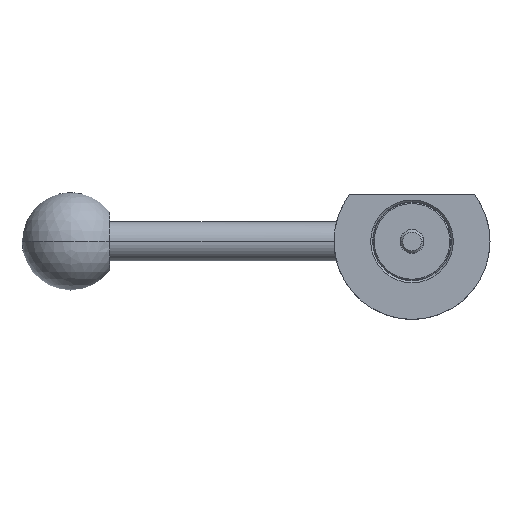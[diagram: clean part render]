
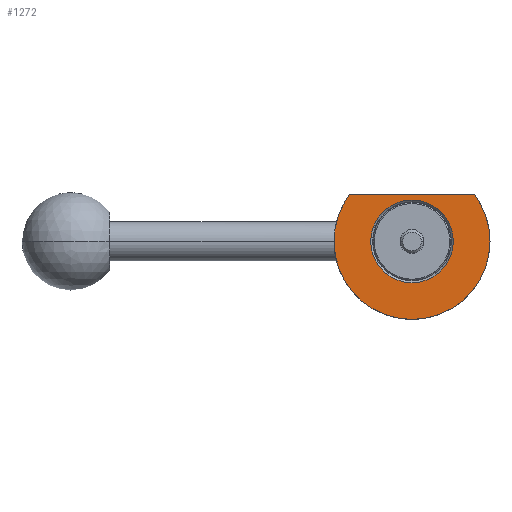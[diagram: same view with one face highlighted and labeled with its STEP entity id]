
A CAD part, front view. The second image highlights one B-rep face of the part: STEP entity #1272.
In plain terms, the highlighted planar face has unit normal (0, -1, 0).
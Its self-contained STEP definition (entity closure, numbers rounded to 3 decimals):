
#108 = CARTESIAN_POINT ( 'NONE',  ( -20., -10., 0. ) ) ;
#115 = CIRCLE ( 'NONE', #377, 20. ) ;
#179 = EDGE_LOOP ( 'NONE', ( #969, #1122 ) ) ;
#233 = CIRCLE ( 'NONE', #1125, 10.6 ) ;
#241 = LINE ( 'NONE', #1375, #759 ) ;
#245 = CARTESIAN_POINT ( 'NONE',  ( 10.6, -10., 0. ) ) ;
#270 = VERTEX_POINT ( 'NONE', #245 ) ;
#336 = DIRECTION ( 'NONE',  ( -1., 0., 0. ) ) ;
#344 = ORIENTED_EDGE ( 'NONE', *, *, #1345, .T. ) ;
#370 = PLANE ( 'NONE',  #1350 ) ;
#377 = AXIS2_PLACEMENT_3D ( 'NONE', #940, #1115, #784 ) ;
#417 = CARTESIAN_POINT ( 'NONE',  ( 0., -10., 0. ) ) ;
#441 = DIRECTION ( 'NONE',  ( 0., 1., 0. ) ) ;
#451 = EDGE_CURVE ( 'NONE', #1433, #1454, #115, .T. ) ;
#465 = CIRCLE ( 'NONE', #1506, 20. ) ;
#539 = EDGE_LOOP ( 'NONE', ( #1408, #344, #1915, #936 ) ) ;
#540 = FACE_OUTER_BOUND ( 'NONE', #539, .T. ) ;
#592 = CARTESIAN_POINT ( 'NONE',  ( -10.6, -10., 0. ) ) ;
#660 = DIRECTION ( 'NONE',  ( 1., 0., 0. ) ) ;
#667 = DIRECTION ( 'NONE',  ( 0., 1., 0. ) ) ;
#683 = CARTESIAN_POINT ( 'NONE',  ( 0., -10., 0. ) ) ;
#759 = VECTOR ( 'NONE', #1986, 1000. ) ;
#784 = DIRECTION ( 'NONE',  ( -1., 0., 0. ) ) ;
#825 = DIRECTION ( 'NONE',  ( -1., 0., 0. ) ) ;
#848 = DIRECTION ( 'NONE',  ( 0., 1., 0. ) ) ;
#868 = EDGE_CURVE ( 'NONE', #270, #1854, #1473, .T. ) ;
#872 = VERTEX_POINT ( 'NONE', #108 ) ;
#936 = ORIENTED_EDGE ( 'NONE', *, *, #2018, .F. ) ;
#940 = CARTESIAN_POINT ( 'NONE',  ( 0., -10., 0. ) ) ;
#969 = ORIENTED_EDGE ( 'NONE', *, *, #868, .T. ) ;
#977 = DIRECTION ( 'NONE',  ( 0., 1., 0. ) ) ;
#986 = CARTESIAN_POINT ( 'NONE',  ( 0., -10., 0. ) ) ;
#1115 = DIRECTION ( 'NONE',  ( 0., 1., 0. ) ) ;
#1122 = ORIENTED_EDGE ( 'NONE', *, *, #1647, .T. ) ;
#1125 = AXIS2_PLACEMENT_3D ( 'NONE', #1751, #667, #336 ) ;
#1132 = CARTESIAN_POINT ( 'NONE',  ( -10.6, -10., 0. ) ) ;
#1186 = AXIS2_PLACEMENT_3D ( 'NONE', #986, #977, #1599 ) ;
#1272 = ADVANCED_FACE ( 'NONE', ( #1936, #540 ), #370, .T. ) ;
#1317 = CIRCLE ( 'NONE', #1186, 20. ) ;
#1345 = EDGE_CURVE ( 'NONE', #1433, #1992, #241, .T. ) ;
#1350 = AXIS2_PLACEMENT_3D ( 'NONE', #1132, #1753, #660 ) ;
#1375 = CARTESIAN_POINT ( 'NONE',  ( -10.6, -10., 11.999 ) ) ;
#1408 = ORIENTED_EDGE ( 'NONE', *, *, #451, .F. ) ;
#1433 = VERTEX_POINT ( 'NONE', #1482 ) ;
#1454 = VERTEX_POINT ( 'NONE', #1530 ) ;
#1473 = CIRCLE ( 'NONE', #1535, 10.6 ) ;
#1476 = CARTESIAN_POINT ( 'NONE',  ( -16.001, -10., 11.999 ) ) ;
#1482 = CARTESIAN_POINT ( 'NONE',  ( 16.001, -10., 11.999 ) ) ;
#1506 = AXIS2_PLACEMENT_3D ( 'NONE', #683, #848, #825 ) ;
#1530 = CARTESIAN_POINT ( 'NONE',  ( 20., -10., 0. ) ) ;
#1535 = AXIS2_PLACEMENT_3D ( 'NONE', #417, #441, #1958 ) ;
#1599 = DIRECTION ( 'NONE',  ( -1., 0., 0. ) ) ;
#1647 = EDGE_CURVE ( 'NONE', #1854, #270, #233, .T. ) ;
#1680 = EDGE_CURVE ( 'NONE', #872, #1992, #1317, .T. ) ;
#1751 = CARTESIAN_POINT ( 'NONE',  ( 0., -10., 0. ) ) ;
#1753 = DIRECTION ( 'NONE',  ( 0., -1., 0. ) ) ;
#1854 = VERTEX_POINT ( 'NONE', #592 ) ;
#1915 = ORIENTED_EDGE ( 'NONE', *, *, #1680, .F. ) ;
#1936 = FACE_BOUND ( 'NONE', #179, .T. ) ;
#1958 = DIRECTION ( 'NONE',  ( -1., 0., 0. ) ) ;
#1986 = DIRECTION ( 'NONE',  ( -1., 0., 0. ) ) ;
#1992 = VERTEX_POINT ( 'NONE', #1476 ) ;
#2018 = EDGE_CURVE ( 'NONE', #1454, #872, #465, .T. ) ;
